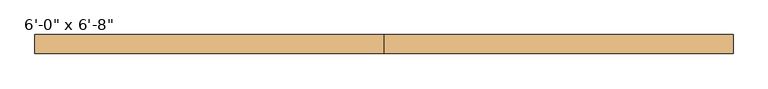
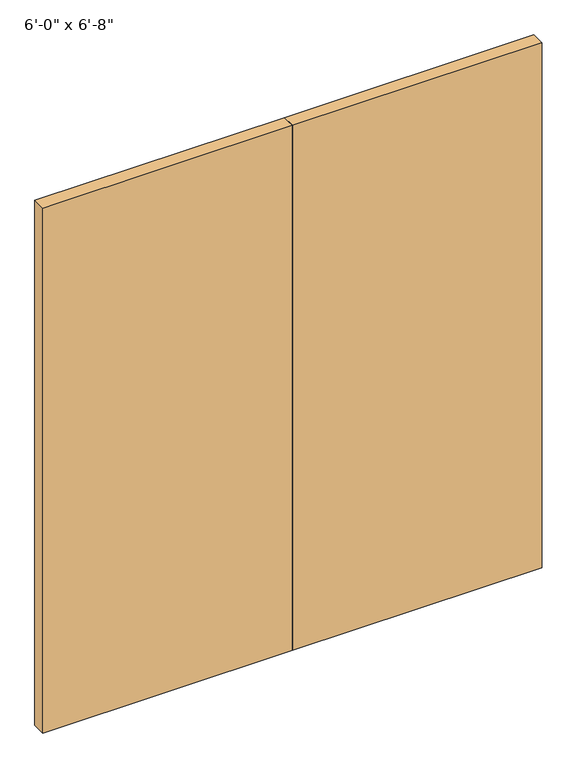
"""IFC4 building model written with IfcOpenShell, lengths in millimetres: door geometry."""

from ifc_helpers import new_model, si_unit, origin, origin_with_axes, place, context, project, spatial, polyline, outline, extrude, source, transform, mapped, element, save


def door_5ce24313(model_context):
    return source(origin(), model_context, "Body", "SweptSolid", [
        extrude(outline(polyline([(0.0, 76.2), (914.4, 76.2), (914.4, 26.2), (0.0, 26.2), (0.0, 76.2)])), origin_with_axes(), (0.0, 0.0, 1.0), 2032.0),
        extrude(outline(polyline([(-914.4, 76.2), (0.0, 76.2), (0.0, 26.2), (-914.4, 26.2), (-914.4, 76.2)])), origin_with_axes(), (0.0, 0.0, 1.0), 2032.0),
    ])


if __name__ == "__main__":
    model = new_model("IFC4")
    model_context = context("Model", 3, world=origin())
    ifc_project = project(units=[si_unit("LENGTHUNIT", "METRE", prefix="MILLI")], contexts=[model_context])
    site = spatial("IfcSite", under=ifc_project)
    building = spatial("IfcBuilding", under=site)
    placement = place(None, origin())
    door_shape = door_5ce24313(model_context)
    element("IfcDoor", 1, ObjectType="Planitar - Double Door_Flush Panel : 6'-0\" x 6'-8\"", at=placement, inside=building, context=model_context, shape_type="MappedRepresentation", body=[
        mapped(door_shape, transform((0.0, 0.0, 0.0), x_axis=(1.0, 0.0, 0.0), y_axis=(0.0, 1.0, 0.0), z_axis=(0.0, 0.0, 1.0))),
    ])
    save(model, "model.ifc")
